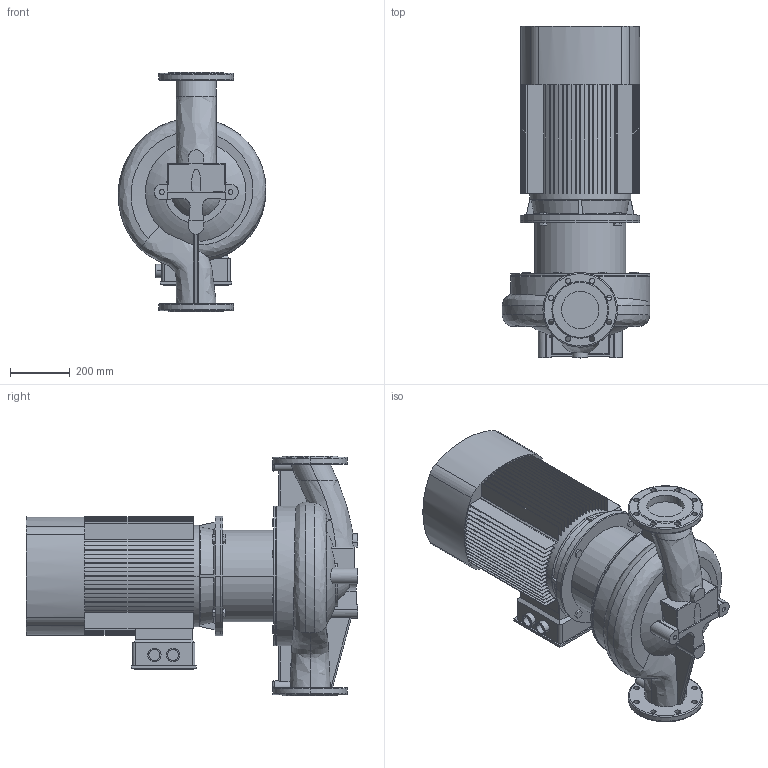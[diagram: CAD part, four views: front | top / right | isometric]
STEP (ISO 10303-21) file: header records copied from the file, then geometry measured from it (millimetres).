
FILE_DESCRIPTION (( 'STEP AP203' ), '1' );
FILE_NAME ('TD125-40G_4.STEP', '2022-05-02T19:19:03', ( '' ), ( '' ), 'SwSTEP 2.0', 'SolidWorks 2019', '' );
FILE_SCHEMA (( 'CONFIG_CONTROL_DESIGN' ));
Length unit declared in the file: millimetre
Products named in the file (4): ED_B5_YE2-200L-4 (30); Fon_125_TD125-40G_4; Pr_ch 125_TD125-40G_4; TD125-40G_4
Assembly tree (3 placements, depth 2):
  TD125-40G_4
    Pr_ch 125_TD125-40G_4
    Fon_125_TD125-40G_4
    ED_B5_YE2-200L-4 (30)
Bounding box: 494.22 x 1110 x 800 mm (x, y, z)
Volume: 119270857.7 mm3; surface area: 4709956.5 mm2
Topology: 5 solids, 5 shells, 720 faces, 1986 edges, 1312 vertices
Faces by surface type: plane 492, cylinder 160, torus 27, bspline 22, cone 17, sphere 2
Entity records: 31517 total; most frequent: CARTESIAN_POINT 12409, ORIENTED_EDGE 3964, DIRECTION 3892, EDGE_CURVE 1982, AXIS2_PLACEMENT_3D 1345, VERTEX_POINT 1312, VECTOR 1202, LINE 1202
